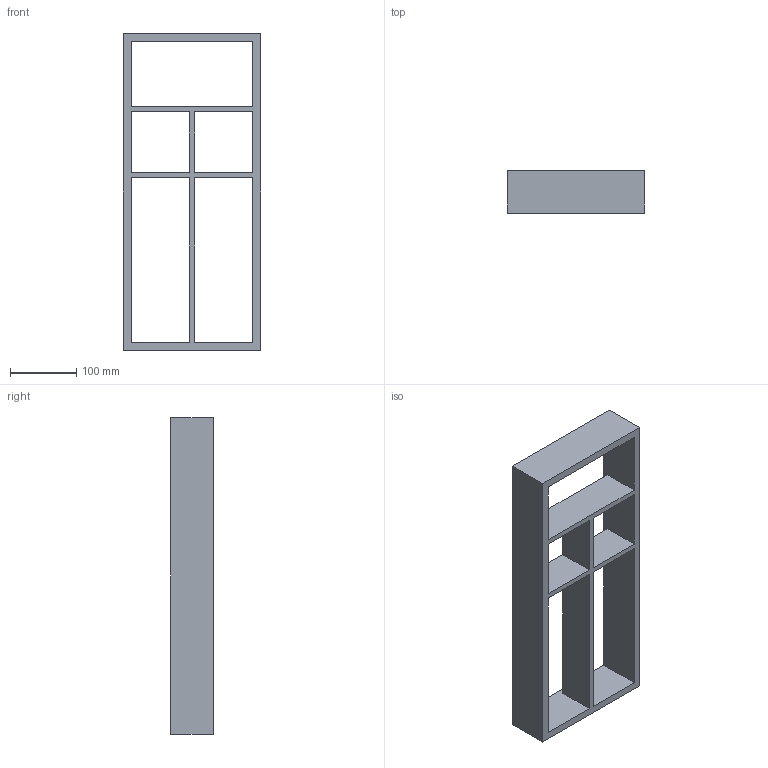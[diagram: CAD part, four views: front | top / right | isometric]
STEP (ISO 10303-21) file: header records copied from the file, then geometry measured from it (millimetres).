
FILE_DESCRIPTION (( 'STEP AP214' ), '1' );
FILE_NAME ('Vario Besteck NL500_B300_16 mm_Buche.step', '2010-11-04T08:33:23', ( 'grass' ), ( '' ), 'SwSTEP 2.0', 'SolidWorks 2010', '' );
FILE_SCHEMA (( 'AUTOMOTIVE_DESIGN' ));
Length unit declared in the file: millimetre
Products named in the file (1): Vario Besteck NL500_B300_16 mm_Buche
Bounding box: 208 x 65 x 479 mm (x, y, z)
Volume: 1357584 mm3; surface area: 292726 mm2
Topology: 1 solids, 1 shells, 22 faces, 72 edges, 48 vertices
Faces by surface type: plane 22
Entity records: 830 total; most frequent: ORIENTED_EDGE 144, CARTESIAN_POINT 143, DIRECTION 118, LINE 72, EDGE_CURVE 72, VECTOR 72, VERTEX_POINT 48, EDGE_LOOP 28
